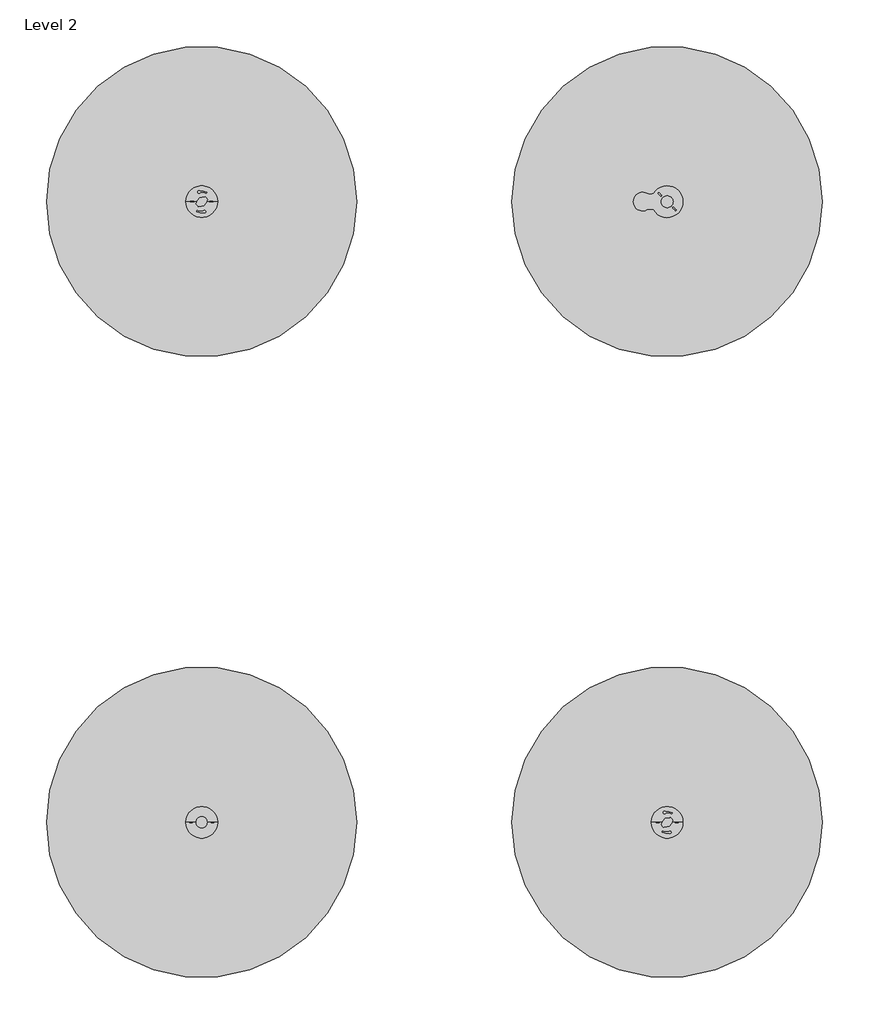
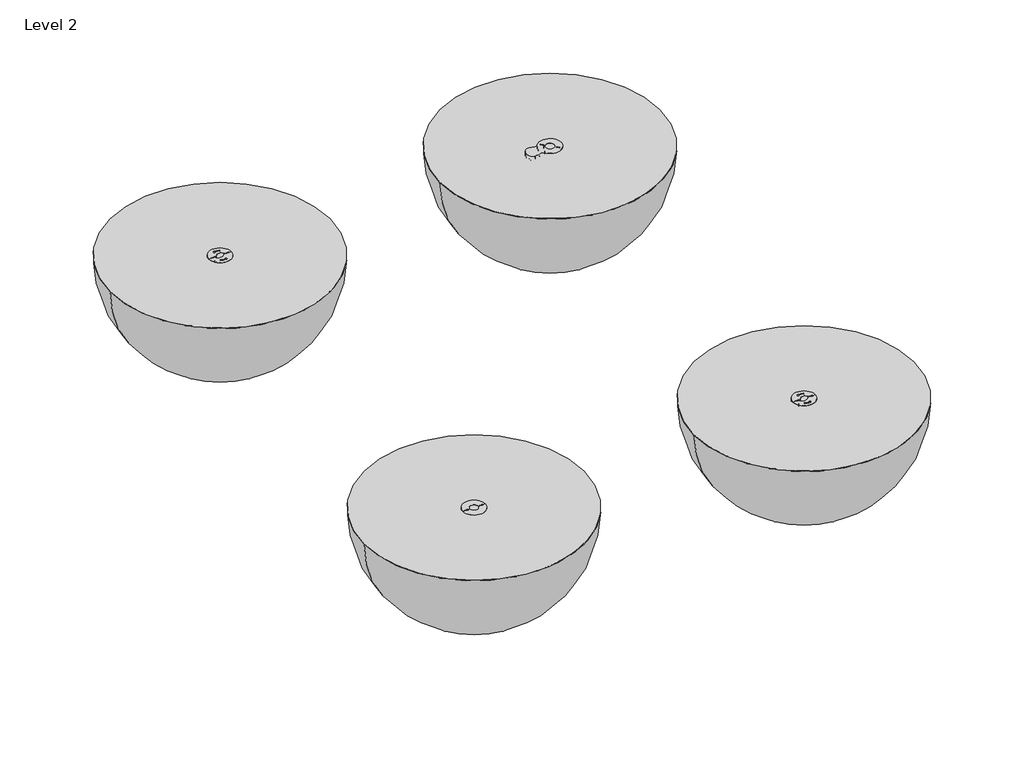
# One storey, incomplete: 4 alarms.
"""IFC4 building model written with IfcOpenShell, lengths in millimetres."""

from ifc_helpers import new_model, si_unit, origin, place, context, project, spatial, transform, mapped, element, save
from components import alarm_4401i_4412f_19216551, alarm_4401i_4412j_49958223, alarm_4401i_4479_b156c475, alarm_4401i_4479_2d29e587

model = new_model("IFC4")

# Units and contexts
model_context = context("Model", 3, world=origin())
ifc_project = project(units=[si_unit("LENGTHUNIT", "METRE", prefix="MILLI")], contexts=[model_context])

# Site, building, storey
site = spatial("IfcSite", under=ifc_project)
building = spatial("IfcBuilding", under=site)
storey = spatial("IfcBuildingStorey", under=building, Name="Level 2", Elevation=4000.0)

# Alarms
placement = place(None, origin())
alarm_4401i_4412f_shape = alarm_4401i_4412f_19216551(model_context)
element("IfcAlarm", 1, ObjectType="4401I_Analog Smoke Detector : 4401I_4412F", at=placement, inside=storey, context=model_context, shape_type="MappedRepresentation", body=[
    mapped(alarm_4401i_4412f_shape, transform((-3322.5746592, 247.8550077, 2600.0), x_axis=(1.0, 0.0, 0.0), y_axis=(0.0, -1.0, 0.0), z_axis=(0.0, 0.0, -1.0))),
])
alarm_4401i_4412j_shape = alarm_4401i_4412j_49958223(model_context)
element("IfcAlarm", 2, ObjectType="4401I_Analog Smoke Detector : 4401I_4412J", at=placement, inside=storey, context=model_context, shape_type="MappedRepresentation", body=[
    mapped(alarm_4401i_4412j_shape, transform((-3322.5746592, 2247.8550077, 2600.0), x_axis=(1.0, 0.0, 0.0), y_axis=(0.0, -1.0, 0.0), z_axis=(0.0, 0.0, -1.0))),
])
element("IfcAlarm", 3, ObjectType="4401I_Analog Smoke Detector : 4401I_4412S", at=placement, inside=storey, context=model_context, shape_type="MappedRepresentation", body=[
    mapped(alarm_4401i_4412j_shape, transform((-1822.5746592, 247.8550077, 2600.0), x_axis=(1.0, 0.0, 0.0), y_axis=(0.0, -1.0, 0.0), z_axis=(0.0, 0.0, -1.0))),
])
alarm_4401i_4479_shape = alarm_4401i_4479_b156c475(model_context)
alarm_4401i_4479_2_shape = alarm_4401i_4479_2d29e587(model_context)
element("IfcAlarm", 4, ObjectType="4401I_Analog Smoke Detector : 4401I_4479", at=placement, inside=storey, context=model_context, shape_type="MappedRepresentation", body=[
    mapped(alarm_4401i_4479_shape, transform((-1822.5746592, 2247.8550077, 2600.0), x_axis=(1.0, 0.0, 0.0), y_axis=(0.0, -1.0, 0.0), z_axis=(0.0, 0.0, -1.0))),
    mapped(alarm_4401i_4479_2_shape, transform((-1822.5746592, 2247.8550077, 2600.0), x_axis=(1.0, 0.0, 0.0), y_axis=(0.0, -1.0, 0.0), z_axis=(0.0, 0.0, -1.0))),
])

save(model, "model.ifc")
